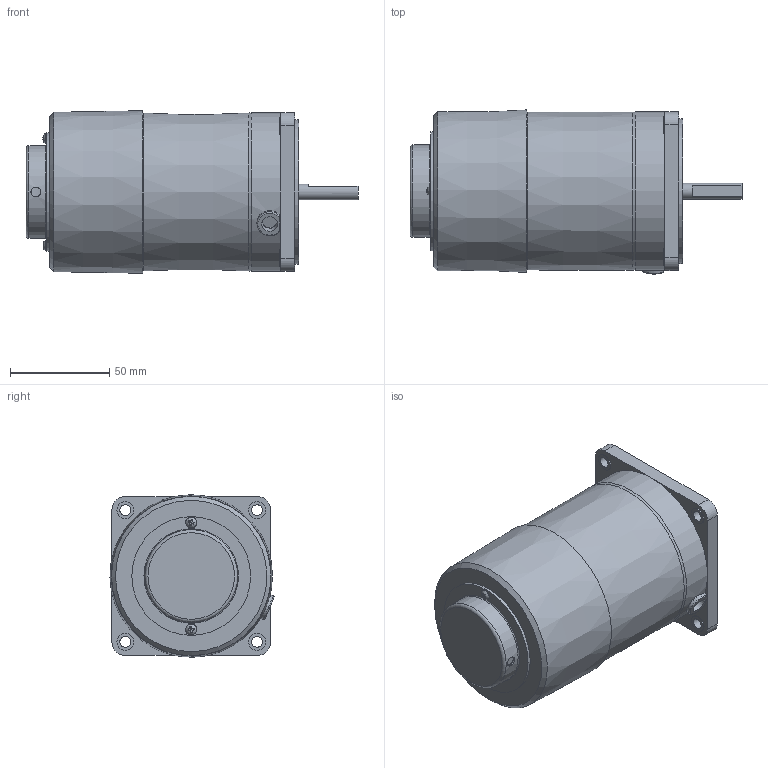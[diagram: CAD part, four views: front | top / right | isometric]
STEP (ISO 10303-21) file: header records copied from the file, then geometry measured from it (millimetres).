
FILE_DESCRIPTION((''),'2;1');
FILE_NAME('D:\김성묵\업무폴더\개발 파일\프로젝트 개발 AB등급\AC표준형 개발자료\90각 이하 표준형 개발\도면작성 자료\3D 도면\홈페이지용 3D 파일\25W MOTOR\ES TYPE\S8R15(25)D-ES.stp','2015-03-30T20:20:08',('smkim'),(''),'Autodesk Inventor 2012','Autodesk Inventor 2012','');
FILE_SCHEMA(('AUTOMOTIVE_DESIGN { 1 0 10303 214 1 1 1 1 }'));
Length unit declared in the file: millimetre
Products named in the file (1): 부품109
Bounding box: 167.5 x 82.78 x 81.99 mm (x, y, z)
Volume: 652630.6 mm3; surface area: 51027.1 mm2
Topology: 1 solids, 6 shells, 145 faces, 332 edges, 217 vertices
Faces by surface type: plane 88, cylinder 43, torus 9, cone 3, bspline 2
Full cylindrical faces by diameter (mm): 3 x2, 3.5 x2, 5 x1, 5.5 x4, 5.6 x2, 8 x2, 8.5 x4, 34 x1, 44.7 x1, 46.7 x1, 47.7 x1, 59.9 x1, 73 x1, 78 x1, 80 x1
Entity records: 4172 total; most frequent: CARTESIAN_POINT 974, DIRECTION 642, ORIENTED_EDGE 570, EDGE_CURVE 285, AXIS2_PLACEMENT_3D 244, EDGE_LOOP 215, VERTEX_POINT 208, VECTOR 154
